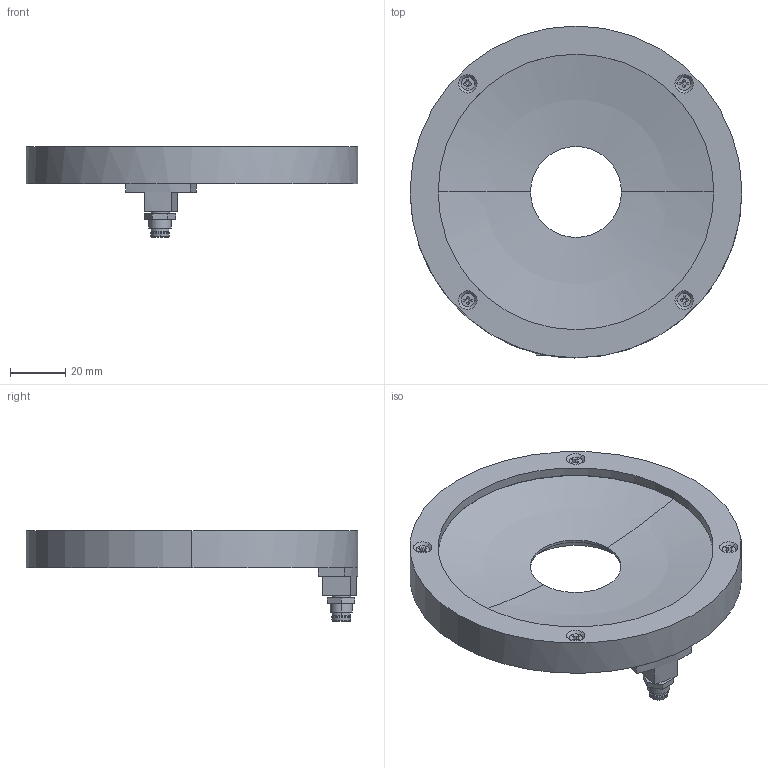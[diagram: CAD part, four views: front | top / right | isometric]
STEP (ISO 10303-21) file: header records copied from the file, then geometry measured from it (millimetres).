
FILE_DESCRIPTION(('STEP AP214'),'1');
FILE_NAME('Arena-100 Kundenmodell 6P.stp','2020-03-11T12:42:20',(' '),(' '),'Spatial InterOp 3D',' ',' ');
FILE_SCHEMA(('AUTOMOTIVE_DESIGN { 1 0 10303 214 1 1 1 1 }'));
Length unit declared in the file: metre
Products named in the file (1): Volumenkörper
Bounding box: 120.4 x 120.42 x 32.83 mm (x, y, z)
Volume: 73013.6 mm3; surface area: 46650.6 mm2
Topology: 1 solids, 1 shells, 518 faces, 1299 edges, 837 vertices
Faces by surface type: plane 223, cylinder 210, cone 40, torus 31, sphere 14
Entity records: 18615 total; most frequent: CARTESIAN_POINT 3797, DIRECTION 2818, ORIENTED_EDGE 2550, EDGE_CURVE 1275, AXIS2_PLACEMENT_3D 1088, VERTEX_POINT 837, LINE 642, VECTOR 642
